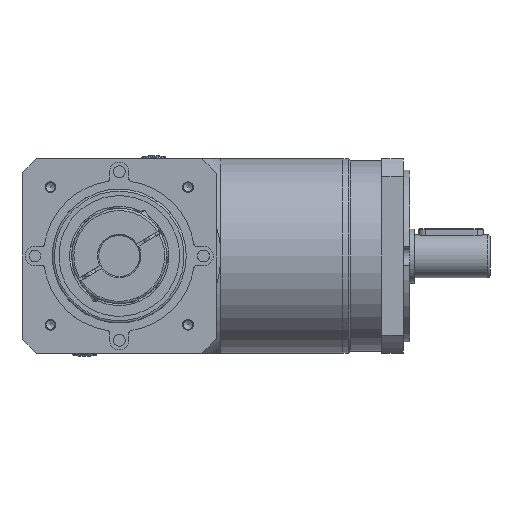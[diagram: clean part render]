
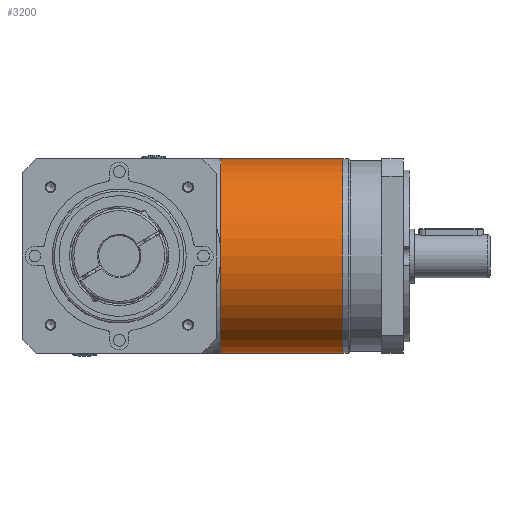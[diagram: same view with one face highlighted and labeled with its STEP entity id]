
A CAD part, front view. The second image highlights one B-rep face of the part: STEP entity #3200.
In plain terms, the highlighted cylindrical face has radius 45 mm (diameter 90 mm), a full revolution.
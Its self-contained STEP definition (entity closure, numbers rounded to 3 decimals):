
#2044=CYLINDRICAL_SURFACE('',#17407,45.);
#2442=FACE_BOUND('',#5036,.T.);
#2443=FACE_BOUND('',#5037,.T.);
#3200=ADVANCED_FACE('',(#2442,#2443),#2044,.T.);
#5036=EDGE_LOOP('',(#9616));
#5037=EDGE_LOOP('',(#9617));
#6115=CIRCLE('',#17393,45.);
#6125=CIRCLE('',#17405,45.);
#9616=ORIENTED_EDGE('',*,*,#14597,.T.);
#9617=ORIENTED_EDGE('',*,*,#14587,.T.);
#12447=VERTEX_POINT('',#31838);
#12457=VERTEX_POINT('',#31860);
#14587=EDGE_CURVE('',#12447,#12447,#6115,.T.);
#14597=EDGE_CURVE('',#12457,#12457,#6125,.T.);
#17393=AXIS2_PLACEMENT_3D('',#31837,#20965,#20966);
#17405=AXIS2_PLACEMENT_3D('',#31859,#20989,#20990);
#17407=AXIS2_PLACEMENT_3D('',#31862,#20993,#20994);
#20965=DIRECTION('',(1.,0.,0.));
#20966=DIRECTION('',(0.,0.,1.));
#20989=DIRECTION('',(-1.,0.,0.));
#20990=DIRECTION('',(0.,-1.,0.));
#20993=DIRECTION('',(1.,0.,0.));
#20994=DIRECTION('',(0.,1.,0.));
#31837=CARTESIAN_POINT('',(19.,0.,0.));
#31838=CARTESIAN_POINT('',(19.,0.,45.));
#31859=CARTESIAN_POINT('',(75.5,0.,0.));
#31860=CARTESIAN_POINT('',(75.5,-45.,0.));
#31862=CARTESIAN_POINT('',(42.,0.,0.));
